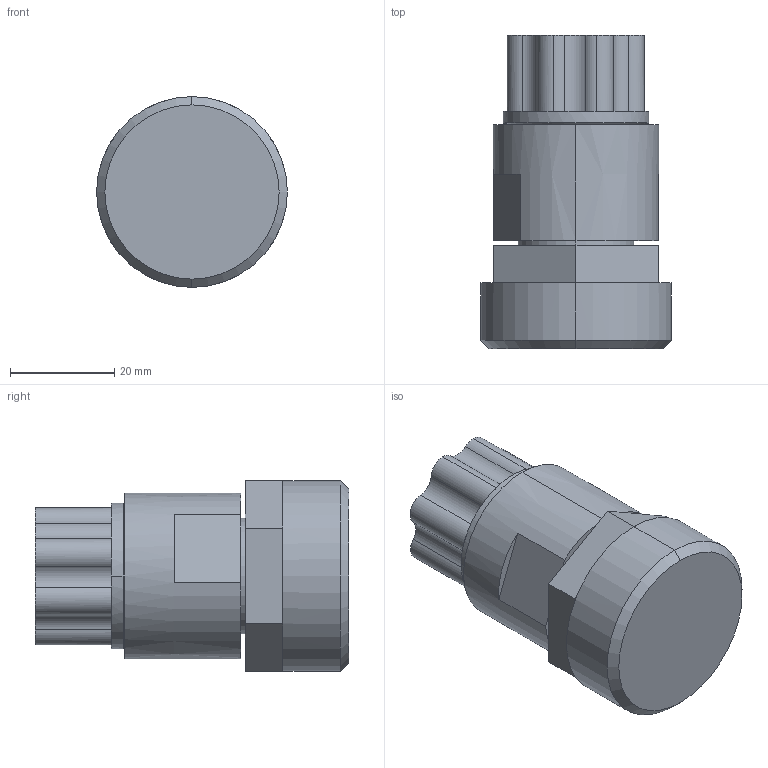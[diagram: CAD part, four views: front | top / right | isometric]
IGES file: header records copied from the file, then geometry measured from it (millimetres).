
Start section: SolidWorks IGES file using analytic representation for surfaces
Global section: file name: S:\Product Visuals\REVISED-30L-TOP-MOUNT-FITTINGS\IGS\top-straight-outlet-only\synchro-flare\08-synchro-flare-with-top-mount-adapter.IGS; native system: SolidWorks 2012; preprocessor: SolidWorks 2012; author: rachel.dressel; date: 121127.161616; units: inch
Bounding box: 36.6 x 60.15 x 36.66 mm (x, y, z)
Volume: 45248 mm3; surface area: 9310.2 mm2
Topology: 1 solids, 1 shells, 70 faces, 167 edges, 104 vertices
Faces by surface type: plane 37, revolution 33
